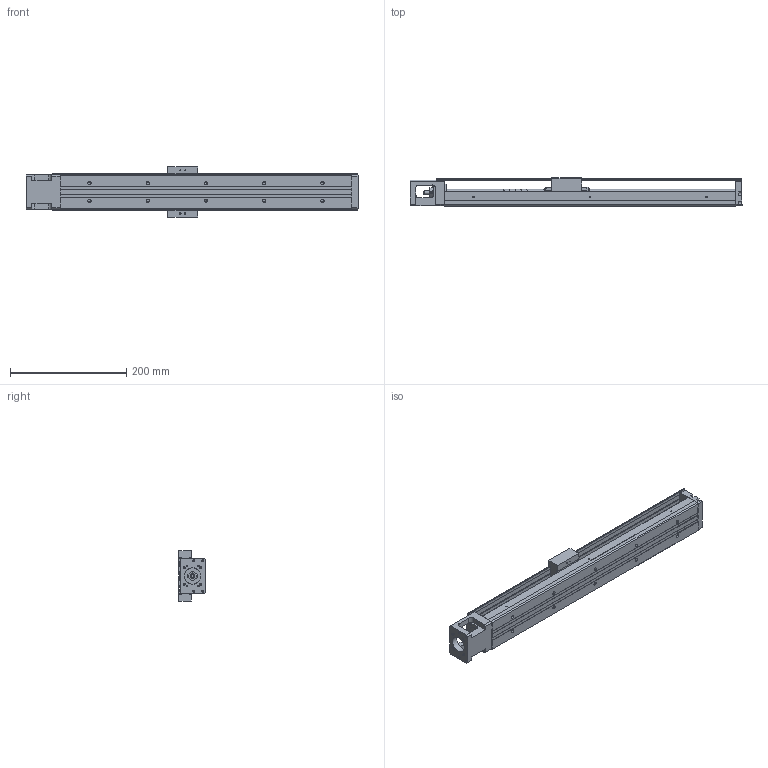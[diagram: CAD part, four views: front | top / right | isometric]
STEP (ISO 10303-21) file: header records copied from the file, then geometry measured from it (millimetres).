
FILE_DESCRIPTION(/* description */ (''),/* implementation_level */ '2;1');
FILE_NAME(/* name */ 'KP33N-500-C.stp',/* time_stamp */ '2020-06-04T15:32:27+08:00',/* author */ (''),/* organization */ (''),/* preprocessor_version */ 'ST-DEVELOPER v14',/* originating_system */ 'SIEMENS PLM Software NX 8.0',/* authorisation */ '');
FILE_SCHEMA (('AUTOMOTIVE_DESIGN { 1 0 10303 214 3 1 1 1 }'));
Length unit declared in the file: millimetre
Products named in the file (1): model1
Bounding box: 570 x 47.95 x 86 mm (x, y, z)
Volume: 730931.2 mm3; surface area: 258493.2 mm2
Topology: 7 solids, 16 shells, 743 faces, 1887 edges, 1249 vertices
Faces by surface type: plane 441, cylinder 215, bspline 31, cone 24, extrusion 21, torus 9, revolution 2
Full cylindrical faces by diameter (mm): 1.6 x5, 1.65 x4, 2.15 x3, 2.42 x4, 2.45 x8, 2.5 x18, 3 x3, 3.2 x4, 3.3 x4, 3.4 x3, 3.5 x10, 3.969 x1, 4 x6, 4.001 x1, 4.135 x4, 4.2 x4, 5.5 x10, 6 x5, 7.6 x1, 8 x5, 9.5 x10, 10.72 x3, 11.8 x2, 12 x6, 12.8 x1, 13 x2, 14 x1, 17.38 x3, 21.5 x1, 22 x2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
Entity records: 37015 total; most frequent: CARTESIAN_POINT 16038, DIRECTION 3380, ORIENTED_EDGE 3262, EDGE_CURVE 1631, AXIS2_PLACEMENT_3D 1196, VERTEX_POINT 1163, EDGE_LOOP 1060, VECTOR 986
